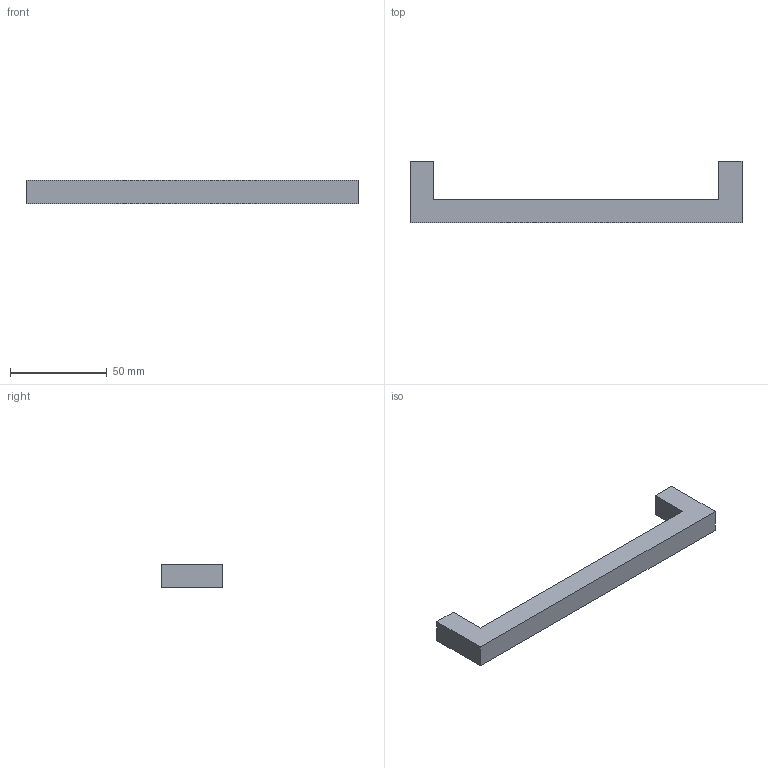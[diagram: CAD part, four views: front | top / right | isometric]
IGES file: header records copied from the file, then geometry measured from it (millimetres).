
Start section: Data from Parasolid IGES Translator 15.0.47, Copyright(c) 2006 Siemens P LM Software. All Rights Reserved.
Global section: file name: 9207348.igs; native system:  By UGS Corp.; preprocessor: XPlus GENERIC/IGES 3.0; author: Noname; organization: Noname; date: 20151215.135608; units: millimetre
Bounding box: 172 x 32 x 12 mm (x, y, z)
Surface area: 10715.3 mm2 (no closed solid volume)
Topology: 0 solids, 0 shells, 14 faces, 60 edges, 58 vertices
Faces by surface type: extrusion 12, revolution 2
